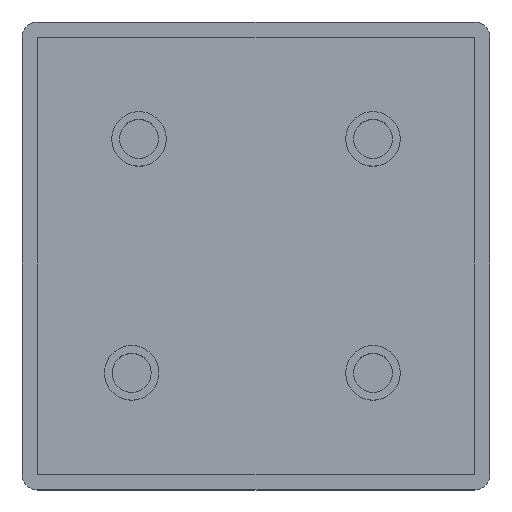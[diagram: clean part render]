
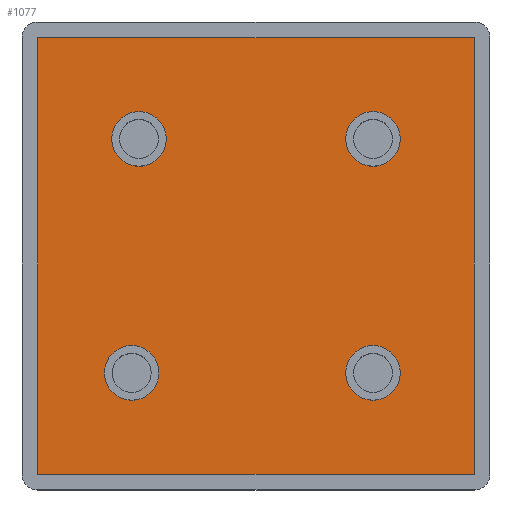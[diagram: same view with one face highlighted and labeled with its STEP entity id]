
A CAD part, top view. The second image highlights one B-rep face of the part: STEP entity #1077.
In plain terms, the highlighted planar face has unit normal (0, 0, 1).
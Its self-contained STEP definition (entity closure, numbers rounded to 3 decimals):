
#35 = CARTESIAN_POINT ( 'NONE',  ( -12.438, -15., 0. ) ) ;
#46 = VECTOR ( 'NONE', #840, 1000. ) ;
#86 = VERTEX_POINT ( 'NONE', #35 ) ;
#93 = EDGE_CURVE ( 'NONE', #344, #232, #1251, .T. ) ;
#105 = VECTOR ( 'NONE', #227, 1000. ) ;
#113 = CARTESIAN_POINT ( 'NONE',  ( -28., 30., 0. ) ) ;
#118 = ORIENTED_EDGE ( 'NONE', *, *, #574, .F. ) ;
#123 = CIRCLE ( 'NONE', #817, 3.5 ) ;
#151 = CARTESIAN_POINT ( 'NONE',  ( -28., 28., 0. ) ) ;
#162 = EDGE_LOOP ( 'NONE', ( #261, #564, #943, #653 ) ) ;
#183 = DIRECTION ( 'NONE',  ( 1., 0., 0. ) ) ;
#193 = CARTESIAN_POINT ( 'NONE',  ( 18.5, -15., 0. ) ) ;
#201 = EDGE_CURVE ( 'NONE', #683, #294, #236, .T. ) ;
#203 = VERTEX_POINT ( 'NONE', #151 ) ;
#207 = DIRECTION ( 'NONE',  ( 1., 0., 0. ) ) ;
#227 = DIRECTION ( 'NONE',  ( 1., 0., 0. ) ) ;
#232 = VERTEX_POINT ( 'NONE', #291 ) ;
#236 = CIRCLE ( 'NONE', #1321, 3.5 ) ;
#254 = LINE ( 'NONE', #113, #867 ) ;
#258 = ORIENTED_EDGE ( 'NONE', *, *, #502, .F. ) ;
#261 = ORIENTED_EDGE ( 'NONE', *, *, #1104, .T. ) ;
#267 = ORIENTED_EDGE ( 'NONE', *, *, #519, .F. ) ;
#288 = DIRECTION ( 'NONE',  ( 1., 0., 0. ) ) ;
#291 = CARTESIAN_POINT ( 'NONE',  ( -11.5, 15., 0. ) ) ;
#294 = VERTEX_POINT ( 'NONE', #193 ) ;
#302 = ORIENTED_EDGE ( 'NONE', *, *, #1062, .F. ) ;
#322 = DIRECTION ( 'NONE',  ( 0., 0., 1. ) ) ;
#329 = CIRCLE ( 'NONE', #550, 3.5 ) ;
#334 = CIRCLE ( 'NONE', #646, 3.5 ) ;
#344 = VERTEX_POINT ( 'NONE', #552 ) ;
#348 = CARTESIAN_POINT ( 'NONE',  ( 11.5, 15., 0. ) ) ;
#350 = DIRECTION ( 'NONE',  ( 0., 0., 1. ) ) ;
#372 = CARTESIAN_POINT ( 'NONE',  ( -30., -28., 0. ) ) ;
#388 = CARTESIAN_POINT ( 'NONE',  ( -28., -28., 0. ) ) ;
#390 = DIRECTION ( 'NONE',  ( 1., 0., 0. ) ) ;
#416 = ORIENTED_EDGE ( 'NONE', *, *, #1113, .F. ) ;
#428 = DIRECTION ( 'NONE',  ( 0., 0., 1. ) ) ;
#430 = DIRECTION ( 'NONE',  ( 1., 0., 0. ) ) ;
#443 = EDGE_LOOP ( 'NONE', ( #459, #416 ) ) ;
#452 = VERTEX_POINT ( 'NONE', #706 ) ;
#459 = ORIENTED_EDGE ( 'NONE', *, *, #93, .F. ) ;
#463 = CARTESIAN_POINT ( 'NONE',  ( -15.938, -15., 0. ) ) ;
#475 = ORIENTED_EDGE ( 'NONE', *, *, #603, .F. ) ;
#489 = CARTESIAN_POINT ( 'NONE',  ( 15., -15., 0. ) ) ;
#502 = EDGE_CURVE ( 'NONE', #946, #816, #1147, .T. ) ;
#513 = LINE ( 'NONE', #372, #105 ) ;
#519 = EDGE_CURVE ( 'NONE', #294, #683, #123, .T. ) ;
#530 = DIRECTION ( 'NONE',  ( 0., 0., 1. ) ) ;
#545 = CIRCLE ( 'NONE', #657, 3.5 ) ;
#550 = AXIS2_PLACEMENT_3D ( 'NONE', #463, #322, #183 ) ;
#552 = CARTESIAN_POINT ( 'NONE',  ( -18.5, 15., 0. ) ) ;
#557 = FACE_OUTER_BOUND ( 'NONE', #162, .T. ) ;
#564 = ORIENTED_EDGE ( 'NONE', *, *, #1217, .T. ) ;
#574 = EDGE_CURVE ( 'NONE', #816, #946, #766, .T. ) ;
#576 = CARTESIAN_POINT ( 'NONE',  ( 0., 0., 0. ) ) ;
#580 = DIRECTION ( 'NONE',  ( 0., 0., 1. ) ) ;
#592 = EDGE_LOOP ( 'NONE', ( #258, #118 ) ) ;
#603 = EDGE_CURVE ( 'NONE', #86, #973, #334, .T. ) ;
#646 = AXIS2_PLACEMENT_3D ( 'NONE', #682, #530, #390 ) ;
#653 = ORIENTED_EDGE ( 'NONE', *, *, #888, .T. ) ;
#657 = AXIS2_PLACEMENT_3D ( 'NONE', #688, #1174, #1042 ) ;
#682 = CARTESIAN_POINT ( 'NONE',  ( -15.938, -15., 0. ) ) ;
#683 = VERTEX_POINT ( 'NONE', #983 ) ;
#688 = CARTESIAN_POINT ( 'NONE',  ( -15., 15., 0. ) ) ;
#703 = AXIS2_PLACEMENT_3D ( 'NONE', #576, #428, #288 ) ;
#706 = CARTESIAN_POINT ( 'NONE',  ( 28., 28., 0. ) ) ;
#720 = PLANE ( 'NONE',  #703 ) ;
#722 = CARTESIAN_POINT ( 'NONE',  ( 15., -15., 0. ) ) ;
#741 = VERTEX_POINT ( 'NONE', #1270 ) ;
#745 = DIRECTION ( 'NONE',  ( 0., 1., 0. ) ) ;
#766 = CIRCLE ( 'NONE', #775, 3.5 ) ;
#775 = AXIS2_PLACEMENT_3D ( 'NONE', #1105, #978, #850 ) ;
#816 = VERTEX_POINT ( 'NONE', #1055 ) ;
#817 = AXIS2_PLACEMENT_3D ( 'NONE', #489, #350, #207 ) ;
#821 = VECTOR ( 'NONE', #745, 1000. ) ;
#840 = DIRECTION ( 'NONE',  ( -1., 0., 0. ) ) ;
#850 = DIRECTION ( 'NONE',  ( 1., 0., 0. ) ) ;
#867 = VECTOR ( 'NONE', #1295, 1000. ) ;
#869 = EDGE_LOOP ( 'NONE', ( #1284, #267 ) ) ;
#880 = CARTESIAN_POINT ( 'NONE',  ( 28., 30., 0. ) ) ;
#888 = EDGE_CURVE ( 'NONE', #452, #203, #1094, .T. ) ;
#901 = AXIS2_PLACEMENT_3D ( 'NONE', #1281, #1162, #1030 ) ;
#943 = ORIENTED_EDGE ( 'NONE', *, *, #1296, .T. ) ;
#946 = VERTEX_POINT ( 'NONE', #348 ) ;
#962 = FACE_BOUND ( 'NONE', #443, .T. ) ;
#968 = CARTESIAN_POINT ( 'NONE',  ( -30., 28., 0. ) ) ;
#973 = VERTEX_POINT ( 'NONE', #1103 ) ;
#978 = DIRECTION ( 'NONE',  ( 0., 0., 1. ) ) ;
#979 = DIRECTION ( 'NONE',  ( 1., 0., 0. ) ) ;
#983 = CARTESIAN_POINT ( 'NONE',  ( 11.5, -15., 0. ) ) ;
#991 = FACE_BOUND ( 'NONE', #592, .T. ) ;
#998 = VERTEX_POINT ( 'NONE', #388 ) ;
#1000 = LINE ( 'NONE', #880, #821 ) ;
#1030 = DIRECTION ( 'NONE',  ( 1., 0., 0. ) ) ;
#1042 = DIRECTION ( 'NONE',  ( 1., 0., 0. ) ) ;
#1055 = CARTESIAN_POINT ( 'NONE',  ( 18.5, 15., 0. ) ) ;
#1062 = EDGE_CURVE ( 'NONE', #973, #86, #329, .T. ) ;
#1077 = ADVANCED_FACE ( 'NONE', ( #557, #962, #991, #1236, #1140 ), #720, .T. ) ;
#1094 = LINE ( 'NONE', #968, #46 ) ;
#1103 = CARTESIAN_POINT ( 'NONE',  ( -19.438, -15., 0. ) ) ;
#1104 = EDGE_CURVE ( 'NONE', #203, #998, #254, .T. ) ;
#1105 = CARTESIAN_POINT ( 'NONE',  ( 15., 15., 0. ) ) ;
#1106 = DIRECTION ( 'NONE',  ( 0., 0., 1. ) ) ;
#1108 = AXIS2_PLACEMENT_3D ( 'NONE', #1229, #1106, #979 ) ;
#1113 = EDGE_CURVE ( 'NONE', #232, #344, #545, .T. ) ;
#1140 = FACE_BOUND ( 'NONE', #1243, .T. ) ;
#1147 = CIRCLE ( 'NONE', #901, 3.5 ) ;
#1162 = DIRECTION ( 'NONE',  ( 0., 0., 1. ) ) ;
#1174 = DIRECTION ( 'NONE',  ( 0., 0., 1. ) ) ;
#1217 = EDGE_CURVE ( 'NONE', #998, #741, #513, .T. ) ;
#1229 = CARTESIAN_POINT ( 'NONE',  ( -15., 15., 0. ) ) ;
#1236 = FACE_BOUND ( 'NONE', #869, .T. ) ;
#1243 = EDGE_LOOP ( 'NONE', ( #302, #475 ) ) ;
#1251 = CIRCLE ( 'NONE', #1108, 3.5 ) ;
#1270 = CARTESIAN_POINT ( 'NONE',  ( 28., -28., 0. ) ) ;
#1281 = CARTESIAN_POINT ( 'NONE',  ( 15., 15., 0. ) ) ;
#1284 = ORIENTED_EDGE ( 'NONE', *, *, #201, .F. ) ;
#1295 = DIRECTION ( 'NONE',  ( 0., -1., 0. ) ) ;
#1296 = EDGE_CURVE ( 'NONE', #741, #452, #1000, .T. ) ;
#1321 = AXIS2_PLACEMENT_3D ( 'NONE', #722, #580, #430 ) ;
